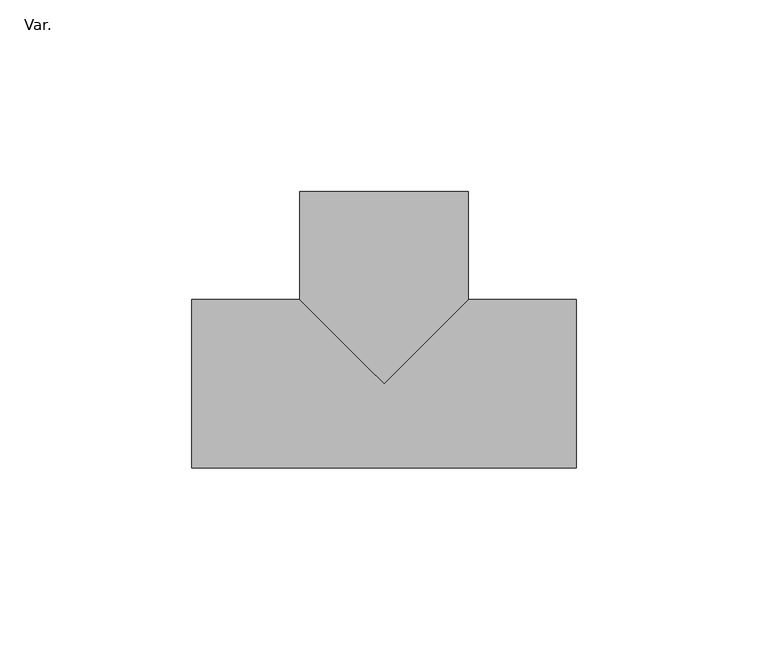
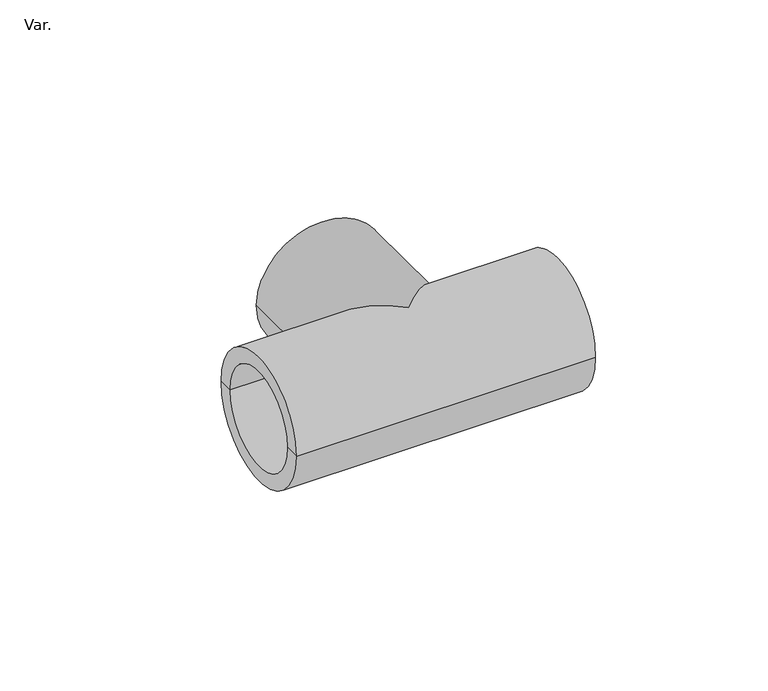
"""IFC4 building model written with IfcOpenShell, lengths in millimetres: pipe fitting geometry, AmancoWavin_Unionesdetubería_Ced-80Tee : Var.."""

from ifc_helpers import new_model, si_unit, frame, origin, place, context, project, spatial, polyline, circle_curve, ellipse_curve, source, transform, mapped, element, save
from ifc_brep_helpers import plane_surface, cylinder_surface, revolved_surface, advanced_brep


def var_74b1aaee(model_context):
    return source(origin(), model_context, "Body", "AdvancedBrep", [
        advanced_brep(
        [(-21.9075, 50.01125, 0.0), (21.9075, 50.01125, 0.0), (21.9075, 21.9075, 0.0), (0.0, 0.0, -21.9075), (-21.9075, 21.9075, 0.0), (0.0, 0.0, 21.9075), (50.01125, -21.9075, 0.0), (50.01125, 21.9075, 0.0), (50.01125, 16.8275, 0.0), (50.01125, -16.8275, 0.0), (-50.01125, -21.9075, 0.0), (-50.01125, 21.9075, 0.0), (-50.01125, -16.8275, 0.0), (-50.01125, 16.8275, 0.0), (-21.43125, -16.8275, 0.0), (-21.43125, 16.8275, 0.0), (-21.43125, 0.0, 0.0), (21.43125, -16.8275, 0.0), (21.43125, 16.8275, 0.0), (21.43125, 0.0, 0.0), (16.8275, 21.43125, 0.0), (16.8275, 50.01125, 0.0), (-16.8275, 50.01125, 0.0), (-16.8275, 21.43125, 0.0), (0.0, 21.43125, 0.0)],
        [
            (0, 1, circle_curve(frame((0.0, 50.01125, 0.0), z_axis=(0.0, -1.0, 0.0), x_axis=(1.0, 0.0, 0.0)), 21.9075)),
            (1, 2),
            (2, 3, ellipse_curve(frame((0.0, 0.0, 0.0), z_axis=(-0.7071067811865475, 0.7071067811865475, 0.0), x_axis=(0.7071067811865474, 0.7071067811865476, 0.0)), 30.9818836, 21.9075)),
            (3, 4, ellipse_curve(frame((0.0, 0.0, 0.0), z_axis=(0.7071067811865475, 0.7071067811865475, 0.0), x_axis=(-0.7071067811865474, 0.7071067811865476, 0.0)), 30.9818836, 21.9075)),
            (4, 0),
            (1, 0, circle_curve(frame((0.0, 50.01125, 0.0), z_axis=(0.0, -1.0, 0.0), x_axis=(1.0, 0.0, 0.0)), 21.9075)),
            (4, 5, ellipse_curve(frame((0.0, 0.0, 0.0), z_axis=(0.7071067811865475, 0.7071067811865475, 0.0), x_axis=(-0.7071067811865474, 0.7071067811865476, 0.0)), 30.9818836, 21.9075)),
            (5, 2, ellipse_curve(frame((0.0, 0.0, 0.0), z_axis=(-0.7071067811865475, 0.7071067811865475, 0.0), x_axis=(0.7071067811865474, 0.7071067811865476, 0.0)), 30.9818836, 21.9075)),
            (6, 7, circle_curve(frame((50.01125, 0.0, 0.0), z_axis=(1.0, 0.0, 0.0), x_axis=(0.0, 1.0, 0.0)), 21.9075)),
            (7, 8),
            (8, 9, circle_curve(frame((50.01125, 0.0, 0.0), z_axis=(-1.0, 0.0, 0.0), x_axis=(0.0, 1.0, 0.0)), 16.8275)),
            (9, 6),
            (7, 6, circle_curve(frame((50.01125, 0.0, 0.0), z_axis=(1.0, 0.0, 0.0), x_axis=(0.0, 1.0, 0.0)), 21.9075)),
            (9, 8, circle_curve(frame((50.01125, 0.0, 0.0), z_axis=(-1.0, 0.0, 0.0), x_axis=(0.0, 1.0, 0.0)), 16.8275)),
            (6, 10),
            (10, 11, circle_curve(frame((-50.01125, 0.0, 0.0), z_axis=(1.0, 0.0, 0.0), x_axis=(0.0, 1.0, 0.0)), 21.9075)),
            (11, 4),
            (2, 7),
            (11, 10, circle_curve(frame((-50.01125, 0.0, 0.0), z_axis=(1.0, 0.0, 0.0), x_axis=(0.0, 1.0, 0.0)), 21.9075)),
            (10, 12),
            (12, 13, circle_curve(frame((-50.01125, 0.0, 0.0), z_axis=(1.0, 0.0, 0.0), x_axis=(0.0, 1.0, 0.0)), 16.8275)),
            (13, 11),
            (13, 12, circle_curve(frame((-50.01125, 0.0, 0.0), z_axis=(1.0, 0.0, 0.0), x_axis=(0.0, 1.0, 0.0)), 16.8275)),
            (12, 14),
            (14, 15, circle_curve(frame((-21.43125, 0.0, 0.0), z_axis=(1.0, 0.0, 0.0), x_axis=(0.0, 1.0, 0.0)), 16.8275)),
            (15, 13),
            (15, 14, circle_curve(frame((-21.43125, 0.0, 0.0), z_axis=(1.0, 0.0, 0.0), x_axis=(0.0, 1.0, 0.0)), 16.8275)),
            (14, 16),
            (16, 15),
            (17, 9),
            (8, 18),
            (18, 17, circle_curve(frame((21.43125, 0.0, 0.0), z_axis=(-1.0, 0.0, 0.0), x_axis=(0.0, 1.0, 0.0)), 16.8275)),
            (17, 18, circle_curve(frame((21.43125, 0.0, 0.0), z_axis=(-1.0, 0.0, 0.0), x_axis=(0.0, 1.0, 0.0)), 16.8275)),
            (18, 19),
            (19, 17),
            (20, 21),
            (21, 22, circle_curve(frame((0.0, 50.01125, 0.0), z_axis=(0.0, 1.0, 0.0), x_axis=(-1.0, 0.0, 0.0)), 16.8275)),
            (22, 23),
            (23, 20, circle_curve(frame((0.0, 21.43125, 0.0), z_axis=(0.0, -1.0, 0.0), x_axis=(-1.0, 0.0, 0.0)), 16.8275)),
            (20, 23, circle_curve(frame((0.0, 21.43125, 0.0), z_axis=(0.0, -1.0, 0.0), x_axis=(-1.0, 0.0, 0.0)), 16.8275)),
            (22, 21, circle_curve(frame((0.0, 50.01125, 0.0), z_axis=(0.0, 1.0, 0.0), x_axis=(-1.0, 0.0, 0.0)), 16.8275)),
            (23, 24),
            (24, 20),
            (0, 22),
            (21, 1),
        ],
        [
            cylinder_surface(frame((0.0, 1890.01125, 0.0), z_axis=(0.0, 1.0, 0.0), x_axis=(1.0, 0.0, 0.0)), 21.9075),
            plane_surface(frame((50.01125, 0.0, 0.0), z_axis=(1.0, 0.0, 0.0), x_axis=(0.0, 1.0, 0.0))),
            cylinder_surface(frame((1890.01125, 0.0, 0.0), z_axis=(-1.0, 0.0, 0.0), x_axis=(0.0, 1.0, 0.0)), 21.9075),
            plane_surface(frame((-50.01125, 0.0, 0.0), z_axis=(-1.0, 0.0, 0.0), x_axis=(0.0, 1.0, 0.0))),
            revolved_surface(polyline([(-50.01125000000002, 16.8275, 0.0), (-21.43125000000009, 16.8275, 0.0)]), (1953.17375, 0.0, 0.0), (-1.0, 0.0, 0.0)),
            plane_surface(frame((-21.43125, 0.0, 0.0), z_axis=(-1.0, 0.0, 0.0), x_axis=(0.0, 1.0, 0.0))),
            revolved_surface(polyline([(21.43125000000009, 16.8275, 0.0), (50.01125000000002, 16.8275, 0.0)]), (1953.17375, 0.0, 0.0), (-1.0, 0.0, 0.0)),
            plane_surface(frame((21.43125, 0.0, 0.0), z_axis=(1.0, 0.0, 0.0), x_axis=(0.0, 1.0, 0.0))),
            revolved_surface(polyline([(-16.8275, 21.43125000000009, 0.0), (-16.8275, 50.01125000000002, 0.0)]), (0.0, 1953.17375, 0.0), (0.0, -1.0, 0.0)),
            plane_surface(frame((0.0, 21.43125, 0.0), z_axis=(0.0, 1.0, 0.0), x_axis=(-1.0, 0.0, 0.0))),
            plane_surface(frame((0.0, 50.01125, 0.0), z_axis=(0.0, 1.0, 0.0), x_axis=(1.0, 0.0, 0.0))),
        ],
        [
            (0, [[1, 2, 3, 4, 5]]),
            (0, [[6, -5, 7, 8, -2]]),
            (1, [[9, 10, 11, 12]]),
            (1, [[13, -12, 14, -10]]),
            (2, [[-9, 15, 16, 17, -4, -3, 18]]),
            (2, [[-13, -18, -8, -7, -17, 19, -15]]),
            (3, [[-16, 20, 21, 22]]),
            (3, [[-19, -22, 23, -20]]),
            (4, [[24, 25, 26, -21]]),
            (4, [[-24, -23, -26, 27]]),
            (5, [[-25, 28, 29]]),
            (5, [[-27, -29, -28]]),
            (6, [[30, -11, 31, 32]]),
            (6, [[-30, 33, -31, -14]]),
            (7, [[-32, 34, 35]]),
            (7, [[-33, -35, -34]]),
            (8, [[36, 37, 38, 39]]),
            (8, [[-36, 40, -38, 41]]),
            (9, [[-39, 42, 43]]),
            (9, [[-40, -43, -42]]),
            (10, [[-1, 44, -37, 45]]),
            (10, [[-6, -45, -41, -44]]),
        ],
    ),
    ])


if __name__ == "__main__":
    model = new_model("IFC4")
    model_context = context("Model", 3, world=origin())
    ifc_project = project(units=[si_unit("LENGTHUNIT", "METRE", prefix="MILLI")], contexts=[model_context])
    site = spatial("IfcSite", under=ifc_project)
    building = spatial("IfcBuilding", under=site)
    placement = place(None, origin())
    var_shape = var_74b1aaee(model_context)
    element("IfcPipeFitting", 1, ObjectType="AmancoWavin_Unionesdetubería_Ced-80Tee : Var.", at=placement, inside=building, context=model_context, shape_type="MappedRepresentation", body=[
        mapped(var_shape, transform((0.0, 0.0, 0.0), x_axis=(1.0, 0.0, 0.0), y_axis=(0.0, 1.0, 0.0), z_axis=(0.0, 0.0, 1.0))),
    ])
    save(model, "model.ifc")
